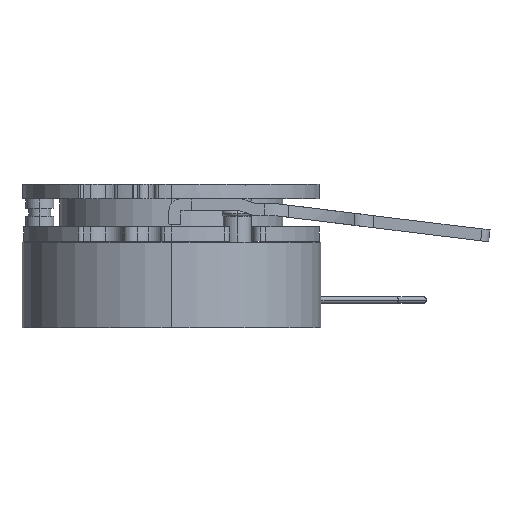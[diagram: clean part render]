
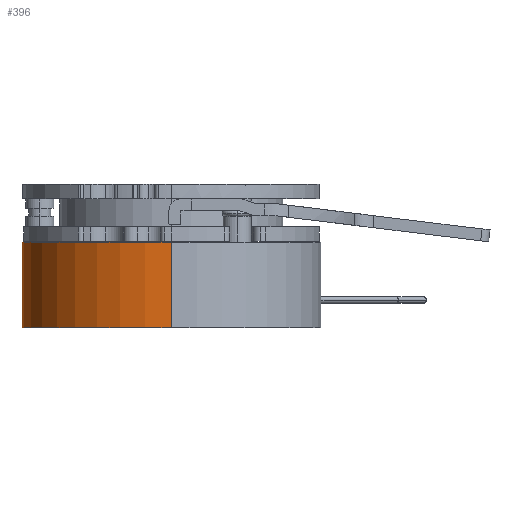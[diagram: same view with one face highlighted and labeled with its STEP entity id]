
A CAD part, left-side view. The second image highlights one B-rep face of the part: STEP entity #396.
In plain terms, the highlighted cylindrical face has radius 37.5 mm (diameter 75 mm), a partial arc.
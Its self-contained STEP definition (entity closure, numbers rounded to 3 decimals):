
#92 = FACE_OUTER_BOUND ( 'NONE', #17325, .T. ) ;
#100 = CYLINDRICAL_SURFACE ( 'NONE', #4893, 37.5 ) ;
#396 = ADVANCED_FACE ( 'NONE', ( #92 ), #100, .T. ) ;
#2040 = CARTESIAN_POINT ( 'NONE',  ( 0., 0., 21.5 ) ) ;
#2041 = DIRECTION ( 'NONE',  ( 0., 0., -1. ) ) ;
#2049 = DIRECTION ( 'NONE',  ( -1., 0., 0. ) ) ;
#2893 = ORIENTED_EDGE ( 'NONE', *, *, #4705, .F. ) ;
#2894 = ORIENTED_EDGE ( 'NONE', *, *, #4704, .T. ) ;
#2895 = ORIENTED_EDGE ( 'NONE', *, *, #4703, .T. ) ;
#2896 = ORIENTED_EDGE ( 'NONE', *, *, #4702, .F. ) ;
#3926 = VERTEX_POINT ( 'NONE', #13933 ) ;
#3927 = VERTEX_POINT ( 'NONE', #13934 ) ;
#3932 = VERTEX_POINT ( 'NONE', #13939 ) ;
#3933 = VERTEX_POINT ( 'NONE', #13940 ) ;
#4702 = EDGE_CURVE ( 'NONE', #3927, #3933, #16524, .T. ) ;
#4703 = EDGE_CURVE ( 'NONE', #3932, #3933, #16525, .T. ) ;
#4704 = EDGE_CURVE ( 'NONE', #3926, #3932, #16521, .T. ) ;
#4705 = EDGE_CURVE ( 'NONE', #3926, #3927, #16528, .T. ) ;
#4893 = AXIS2_PLACEMENT_3D ( 'NONE', #2040, #2041, #2049 ) ;
#13933 = CARTESIAN_POINT ( 'NONE',  ( 37.5, 0., 21.5 ) ) ;
#13934 = CARTESIAN_POINT ( 'NONE',  ( -37.5, 0., 21.5 ) ) ;
#13939 = CARTESIAN_POINT ( 'NONE',  ( 37.5, 0., 0. ) ) ;
#13940 = CARTESIAN_POINT ( 'NONE',  ( -37.5, 0., 0. ) ) ;
#15216 = AXIS2_PLACEMENT_3D ( 'NONE', #16114, #16115, #16116 ) ;
#15217 = AXIS2_PLACEMENT_3D ( 'NONE', #16118, #16119, #16120 ) ;
#16101 = DIRECTION ( 'NONE',  ( 0., 0., -1. ) ) ;
#16102 = CARTESIAN_POINT ( 'NONE',  ( -37.5, 0., 21.5 ) ) ;
#16107 = DIRECTION ( 'NONE',  ( 0., 0., -1. ) ) ;
#16113 = CARTESIAN_POINT ( 'NONE',  ( 37.5, 0., 21.5 ) ) ;
#16114 = CARTESIAN_POINT ( 'NONE',  ( 0., 0., 0. ) ) ;
#16115 = DIRECTION ( 'NONE',  ( 0., 0., 1. ) ) ;
#16116 = DIRECTION ( 'NONE',  ( 1., 0., 0. ) ) ;
#16118 = CARTESIAN_POINT ( 'NONE',  ( 0., 0., 21.5 ) ) ;
#16119 = DIRECTION ( 'NONE',  ( 0., 0., 1. ) ) ;
#16120 = DIRECTION ( 'NONE',  ( 1., 0., 0. ) ) ;
#16521 = LINE ( 'NONE', #16113, #16529 ) ;
#16524 = LINE ( 'NONE', #16102, #16526 ) ;
#16525 = CIRCLE ( 'NONE', #15216, 37.5 ) ;
#16526 = VECTOR ( 'NONE', #16101, 1000. ) ;
#16528 = CIRCLE ( 'NONE', #15217, 37.5 ) ;
#16529 = VECTOR ( 'NONE', #16107, 1000. ) ;
#17325 = EDGE_LOOP ( 'NONE', ( #2893, #2894, #2895, #2896 ) ) ;
